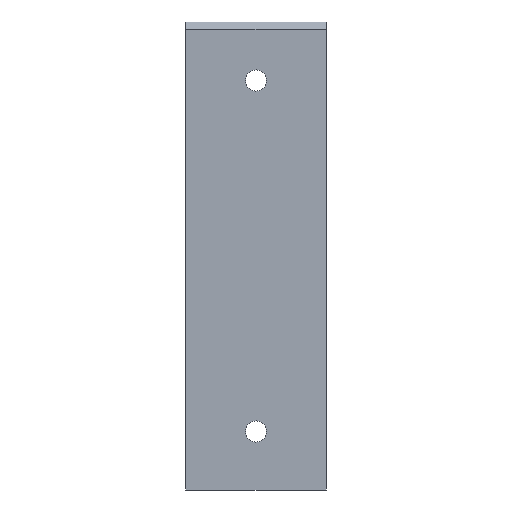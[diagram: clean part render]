
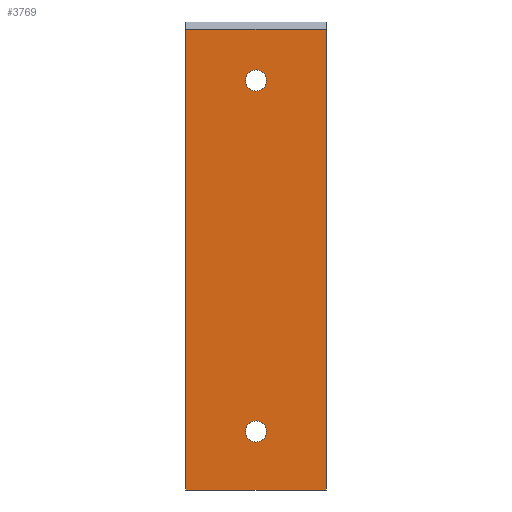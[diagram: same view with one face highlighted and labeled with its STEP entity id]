
A CAD part, front view. The second image highlights one B-rep face of the part: STEP entity #3769.
In plain terms, the highlighted planar face has unit normal (0, -1, 0).
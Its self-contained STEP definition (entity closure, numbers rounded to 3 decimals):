
#45 = DIRECTION ( 'NONE',  ( 1., 0., 0. ) ) ;
#64 = CARTESIAN_POINT ( 'NONE',  ( 34.5, 0., 175. ) ) ;
#168 = VERTEX_POINT ( 'NONE', #2812 ) ;
#230 = AXIS2_PLACEMENT_3D ( 'NONE', #3273, #632, #3723 ) ;
#293 = AXIS2_PLACEMENT_3D ( 'NONE', #4150, #1474, #4589 ) ;
#365 = VECTOR ( 'NONE', #4188, 1000. ) ;
#632 = DIRECTION ( 'NONE',  ( 0., -1., 0. ) ) ;
#755 = EDGE_LOOP ( 'NONE', ( #1419, #5516, #2182, #3711 ) ) ;
#833 = CARTESIAN_POINT ( 'NONE',  ( 0., 0., 200. ) ) ;
#864 = CARTESIAN_POINT ( 'NONE',  ( 25.5, 0., 175. ) ) ;
#975 = AXIS2_PLACEMENT_3D ( 'NONE', #5291, #5271, #5234 ) ;
#1269 = DIRECTION ( 'NONE',  ( 0., 0., -1. ) ) ;
#1352 = EDGE_CURVE ( 'NONE', #5607, #4624, #2357, .T. ) ;
#1364 = CARTESIAN_POINT ( 'NONE',  ( 30., 0., 197. ) ) ;
#1396 = LINE ( 'NONE', #5050, #365 ) ;
#1419 = ORIENTED_EDGE ( 'NONE', *, *, #4970, .T. ) ;
#1444 = VERTEX_POINT ( 'NONE', #5190 ) ;
#1474 = DIRECTION ( 'NONE',  ( 0., -1., 0. ) ) ;
#1583 = CARTESIAN_POINT ( 'NONE',  ( 60., 0., 0. ) ) ;
#1585 = VECTOR ( 'NONE', #4033, 1000. ) ;
#1667 = PLANE ( 'NONE',  #3593 ) ;
#1850 = LINE ( 'NONE', #5348, #5097 ) ;
#1952 = AXIS2_PLACEMENT_3D ( 'NONE', #5321, #2708, #45 ) ;
#2028 = CARTESIAN_POINT ( 'NONE',  ( 25.5, 0., 25. ) ) ;
#2048 = FACE_OUTER_BOUND ( 'NONE', #755, .T. ) ;
#2182 = ORIENTED_EDGE ( 'NONE', *, *, #2796, .F. ) ;
#2290 = LINE ( 'NONE', #5088, #3745 ) ;
#2357 = CIRCLE ( 'NONE', #975, 4.5 ) ;
#2419 = EDGE_CURVE ( 'NONE', #4434, #168, #3753, .T. ) ;
#2708 = DIRECTION ( 'NONE',  ( 0., -1., 0. ) ) ;
#2737 = DIRECTION ( 'NONE',  ( 1., 0., 0. ) ) ;
#2796 = EDGE_CURVE ( 'NONE', #3810, #2827, #2290, .T. ) ;
#2812 = CARTESIAN_POINT ( 'NONE',  ( 34.5, 0., 25. ) ) ;
#2827 = VERTEX_POINT ( 'NONE', #1583 ) ;
#2845 = CIRCLE ( 'NONE', #230, 4.5 ) ;
#3059 = CARTESIAN_POINT ( 'NONE',  ( 60., 0., 197. ) ) ;
#3091 = EDGE_CURVE ( 'NONE', #1444, #3810, #4980, .T. ) ;
#3273 = CARTESIAN_POINT ( 'NONE',  ( 30., 0., 175. ) ) ;
#3374 = VERTEX_POINT ( 'NONE', #4907 ) ;
#3593 = AXIS2_PLACEMENT_3D ( 'NONE', #833, #3926, #1269 ) ;
#3711 = ORIENTED_EDGE ( 'NONE', *, *, #3091, .F. ) ;
#3723 = DIRECTION ( 'NONE',  ( 1., 0., 0. ) ) ;
#3745 = VECTOR ( 'NONE', #3781, 1000. ) ;
#3753 = CIRCLE ( 'NONE', #293, 4.5 ) ;
#3769 = ADVANCED_FACE ( 'NONE', ( #2048, #4285, #5401 ), #1667, .T. ) ;
#3781 = DIRECTION ( 'NONE',  ( 0., 0., -1. ) ) ;
#3810 = VERTEX_POINT ( 'NONE', #3059 ) ;
#3921 = EDGE_CURVE ( 'NONE', #168, #4434, #5597, .T. ) ;
#3926 = DIRECTION ( 'NONE',  ( 0., -1., 0. ) ) ;
#4002 = ORIENTED_EDGE ( 'NONE', *, *, #1352, .F. ) ;
#4033 = DIRECTION ( 'NONE',  ( 1., 0., 0. ) ) ;
#4150 = CARTESIAN_POINT ( 'NONE',  ( 30., 0., 25. ) ) ;
#4188 = DIRECTION ( 'NONE',  ( 0., 0., -1. ) ) ;
#4285 = FACE_BOUND ( 'NONE', #4875, .T. ) ;
#4403 = ORIENTED_EDGE ( 'NONE', *, *, #2419, .F. ) ;
#4434 = VERTEX_POINT ( 'NONE', #2028 ) ;
#4589 = DIRECTION ( 'NONE',  ( 1., 0., 0. ) ) ;
#4599 = ORIENTED_EDGE ( 'NONE', *, *, #3921, .F. ) ;
#4624 = VERTEX_POINT ( 'NONE', #864 ) ;
#4676 = EDGE_LOOP ( 'NONE', ( #4002, #5196 ) ) ;
#4875 = EDGE_LOOP ( 'NONE', ( #4403, #4599 ) ) ;
#4902 = EDGE_CURVE ( 'NONE', #4624, #5607, #2845, .T. ) ;
#4907 = CARTESIAN_POINT ( 'NONE',  ( 0., 0., 0. ) ) ;
#4970 = EDGE_CURVE ( 'NONE', #1444, #3374, #1396, .T. ) ;
#4980 = LINE ( 'NONE', #1364, #1585 ) ;
#5050 = CARTESIAN_POINT ( 'NONE',  ( 0., 0., 98.5 ) ) ;
#5088 = CARTESIAN_POINT ( 'NONE',  ( 60., 0., 98.5 ) ) ;
#5097 = VECTOR ( 'NONE', #2737, 1000. ) ;
#5190 = CARTESIAN_POINT ( 'NONE',  ( 0., 0., 197. ) ) ;
#5196 = ORIENTED_EDGE ( 'NONE', *, *, #4902, .F. ) ;
#5234 = DIRECTION ( 'NONE',  ( 1., 0., 0. ) ) ;
#5271 = DIRECTION ( 'NONE',  ( 0., -1., 0. ) ) ;
#5291 = CARTESIAN_POINT ( 'NONE',  ( 30., 0., 175. ) ) ;
#5321 = CARTESIAN_POINT ( 'NONE',  ( 30., 0., 25. ) ) ;
#5348 = CARTESIAN_POINT ( 'NONE',  ( 30., 0., 0. ) ) ;
#5401 = FACE_BOUND ( 'NONE', #4676, .T. ) ;
#5516 = ORIENTED_EDGE ( 'NONE', *, *, #5634, .T. ) ;
#5597 = CIRCLE ( 'NONE', #1952, 4.5 ) ;
#5607 = VERTEX_POINT ( 'NONE', #64 ) ;
#5634 = EDGE_CURVE ( 'NONE', #3374, #2827, #1850, .T. ) ;
